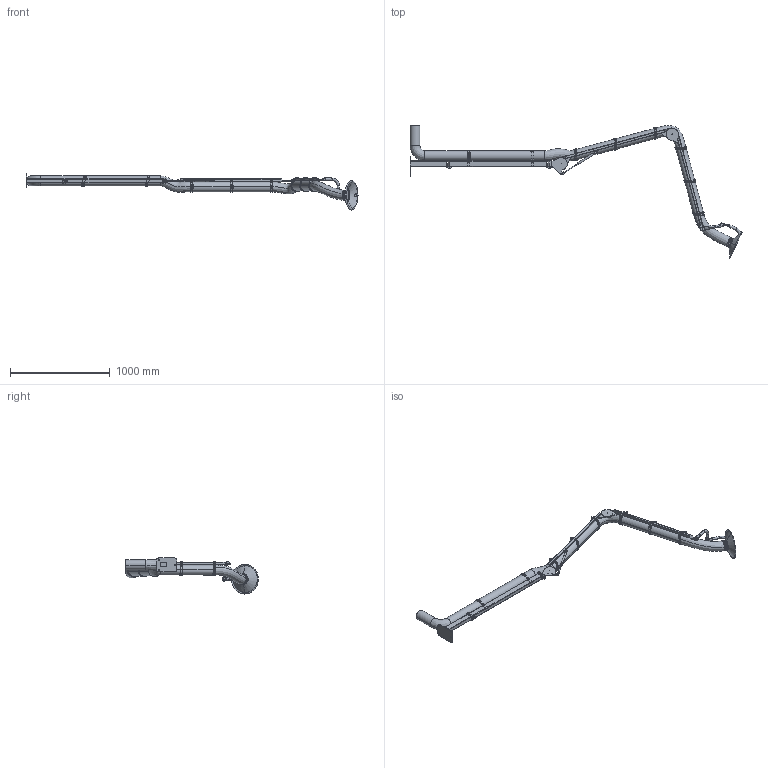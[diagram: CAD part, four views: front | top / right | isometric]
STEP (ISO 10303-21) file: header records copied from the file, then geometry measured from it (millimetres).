
FILE_DESCRIPTION((''),'2;1');
FILE_NAME('PSR_4000-100_EXD','2022-10-04T13:24:14',('Tomas Bellgran'),(''),'CREO PARAMETRIC BY PTC INC, 2018260','CREO PARAMETRIC BY PTC INC, 2018260','');
FILE_SCHEMA(('AUTOMOTIVE_DESIGN { 1 0 10303 214 1 1 1 1 }'));
Length unit declared in the file: millimetre
Products named in the file (35): 141558; 141580; 141581; 122701; 141514; 141560; 141582; 141587; 141524; 121391; 131150_LIGHT; 139380_LIGHT; 131151_LIGHT; 131170_LIGHT; 144356; 141589; 134343_AF0; G_P136_WELD-REF; 141590; 120626; 122750_LIGHT; 122717_LIGHT; 120127_COMPL_LIGHT; 130317; ROD_STAB_8-160-REF; 131095; 130322_AF10; 131145; 147064_EXD; 124460; 107521-11; 117586; 131138; 107520-100; PSR_4000-100_EXD
Assembly tree (53 placements, depth 3):
  PSR_4000-100_EXD
    141514
      141558
      141580
      141581
      122701
    141524
      141560
      141582
      141587
    121391  x4
    131150_LIGHT
    131170_LIGHT
      139380_LIGHT
      131151_LIGHT
    144356  x2
    141590
      141589
      134343_AF0
      G_P136_WELD-REF
    120626
    122750_LIGHT
    122717_LIGHT
    120127_COMPL_LIGHT  x2
    130322_AF10
      130317
      ROD_STAB_8-160-REF
      131095  x2
    131145  x2
    147064_EXD
    124460  x6
    107521-11  x6
    131138  x2
      117586
    107520-100  x2
Bounding box: 3333.14 x 1334.42 x 362.95 mm (x, y, z)
Volume: 39160155.1 mm3; surface area: 2517843.4 mm2
Topology: 47 solids, 47 shells, 1336 faces, 3186 edges, 1947 vertices
Faces by surface type: plane 547, cylinder 389, bspline 326, cone 34, extrusion 20, torus 16, sphere 4
Entity records: 45374 total; most frequent: CARTESIAN_POINT 17359, DIRECTION 3560, ORIENTED_EDGE 3510, PRESENTATION_STYLE_ASSIGNMENT 2302, STYLED_ITEM 2279, CURVE_STYLE 1765, EDGE_CURVE 1755, AXIS2_PLACEMENT_3D 1337
